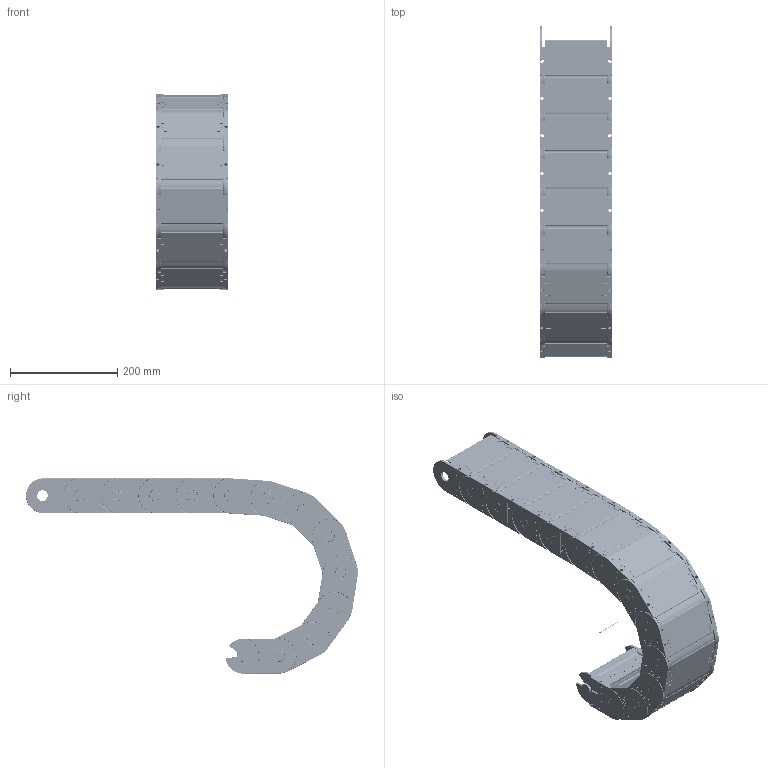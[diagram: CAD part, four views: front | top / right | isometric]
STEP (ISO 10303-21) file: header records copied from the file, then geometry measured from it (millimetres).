
FILE_DESCRIPTION((''),'2;1');
FILE_NAME('C:\Uebbing\PARAMETERKETTEN\KOLIBRI\Kol_65_135_5\Kol_65_135_5_R150.stp','2012-03-06T09:08:57',('Uebbing'),(''),'Autodesk Inventor 10','Autodesk Inventor 10','');
FILE_SCHEMA(('AUTOMOTIVE_DESIGN { 1 0 10303 214 1 1 1 1 }'));
Length unit declared in the file: millimetre
Products named in the file (5): KOLIBRI 65_135_5_PARAMETRISCH; Achse; Kol_65_135_5; Kol_65_135_5 Lasche; Kol_65_135_5 Klappdeckel
Assembly tree (16 placements, depth 3):
  KOLIBRI 65_135_5_PARAMETRISCH
    Achse
    Kol_65_135_5  x13
      Kol_65_135_5 Lasche
      Kol_65_135_5 Klappdeckel
Bounding box: 135 x 620.06 x 365 mm (x, y, z)
Volume: 1534295.1 mm3; surface area: 1051654.1 mm2
Topology: 27 solids, 27 shells, 8323 faces, 22676 edges, 14498 vertices
Faces by surface type: plane 3343, bspline 3159, cylinder 1470, torus 273, cone 52, sphere 26
Full cylindrical faces by diameter (mm): 1 x1, 2.514 x13, 4 x39, 4.414 x13, 6 x13, 20 x26
Entity records: 21876 total; most frequent: CARTESIAN_POINT 6109, ORIENTED_EDGE 3422, DIRECTION 2945, EDGE_CURVE 1711, VECTOR 1239, LINE 1239, VERTEX_POINT 1106, AXIS2_PLACEMENT_3D 853
